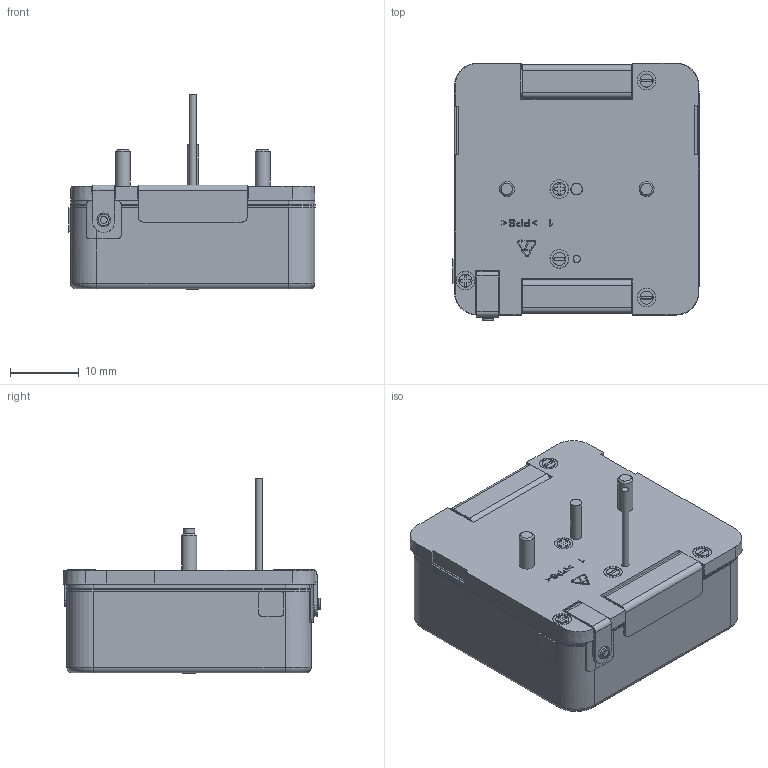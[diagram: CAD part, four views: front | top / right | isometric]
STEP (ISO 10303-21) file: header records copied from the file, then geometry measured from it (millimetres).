
FILE_DESCRIPTION(/* description */ (''),/* implementation_level */ '2;1');
FILE_NAME(/* name */ 'EP1-C model for data share 04-April-19.stp',/* time_stamp */ '2024-06-03T15:28:15+03:00',/* author */ ('EPetuhov'),/* organization */ (''),/* preprocessor_version */ 'ST-DEVELOPER v20',/* originating_system */ 'Autodesk Inventor 2024',/* authorisation */ '');
FILE_SCHEMA (('AUTOMOTIVE_DESIGN { 1 0 10303 214 3 1 1 }'));
Products named in the file (1): EP1-C model for data share 04-April-19
Bounding box: 35.85 x 37.52 x 28.51 mm (x, y, z)
Volume: 18815.5 mm3; surface area: 5208.4 mm2
Topology: 1 solids, 2 shells, 1409 faces, 3787 edges, 2501 vertices
Faces by surface type: plane 812, bspline 483, cylinder 69, cone 37, torus 8
Full cylindrical faces by diameter (mm): 1.016 x3, 1.524 x1, 1.6 x1, 1.626 x2, 1.824 x2, 1.854 x2, 2.184 x2
Entity records: 47949 total; most frequent: CARTESIAN_POINT 14289, ORIENTED_EDGE 7572, DIRECTION 4891, EDGE_CURVE 3786, LINE 2591, VECTOR 2591, VERTEX_POINT 2501, EDGE_LOOP 1551
